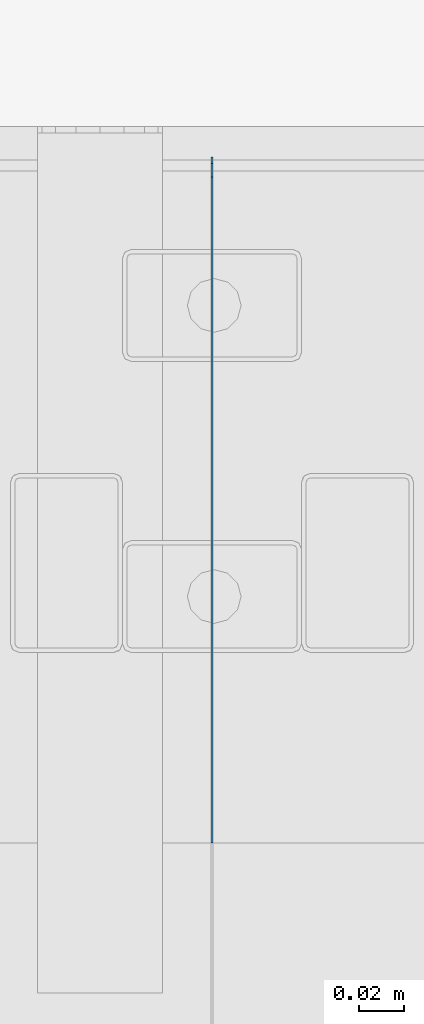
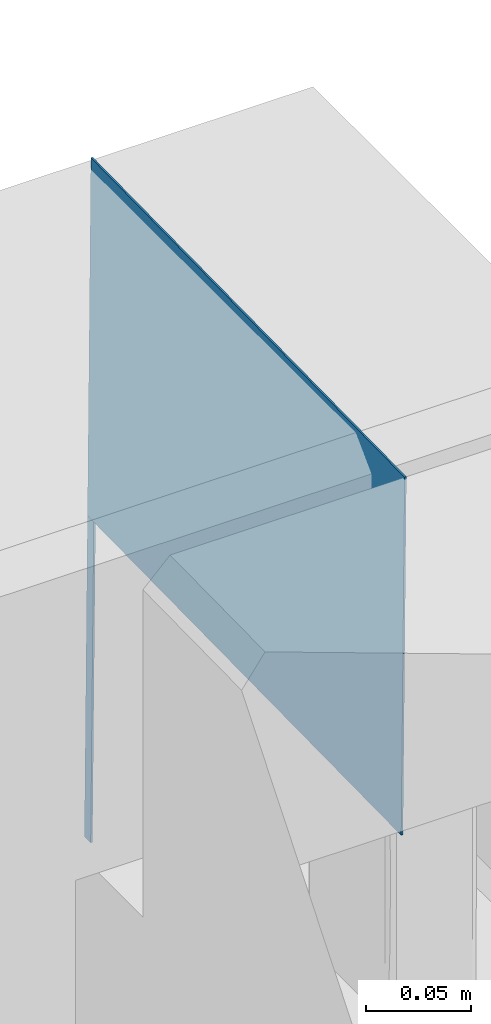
# One storey, part 53 of 186: 2 beams.
"""IFC4X3_ADD2 building model written with IfcOpenShell, lengths in millimetres."""

import ifcopenshell
import ifcopenshell.guid

model = None  # the IFC model being written
_history = None  # IfcOwnerHistory: only IFC2X3 demands one
_inside = {}  # id of a spatial element -> (the spatial element, [elements in it])
_under = {}  # id of a project, library or spatial element -> (it, [spatial elements below it])
_declared = {}  # id of a project -> (the project, [libraries it declares])
_typed = {}  # id of a type object -> (the type object, [elements of that type])
_made_of = {}  # id of a material, layer set ... -> (it, [elements and type objects made of it])


def new_model(schema):
    """Start an empty IFC model of exactly this schema.

    Asked for "IFC4X3", IfcOpenShell would pick the latest addendum, in which some entities
    have other attributes; the version numbers below select the first issue.
    IFC2X3 requires an IfcOwnerHistory on every rooted entity: one is made here for all.
    """
    global model, _history
    if schema == "IFC4X3":
        model = ifcopenshell.file(schema_version=(4, 3, 0, 0))
    else:
        model = ifcopenshell.file(schema=schema)
    _inside.clear()
    _under.clear()
    _declared.clear()
    _typed.clear()
    _made_of.clear()
    _history = None
    if model.schema == "IFC2X3":
        org = make("IfcOrganization", Name="unknown")
        user = make(
            "IfcPersonAndOrganization",
            ThePerson=make("IfcPerson", FamilyName="unknown"),
            TheOrganization=org,
        )
        app = make(
            "IfcApplication",
            ApplicationDeveloper=org,
            Version="unknown",
            ApplicationFullName="unknown",
            ApplicationIdentifier="unknown",
        )
        _history = make(
            "IfcOwnerHistory",
            OwningUser=user,
            OwningApplication=app,
            ChangeAction="ADDED",
            CreationDate=0,
        )
    return model


def make(cls, **values):
    """One entity of the class cls with the attributes given. An attribute that is None is left unset."""
    return model.create_entity(
        cls, **{name: value for name, value in values.items() if value is not None}
    )


def rooted(cls, **values):
    """An entity with a GlobalId (a new one), such as an element, a storey or a relation."""
    return make(cls, GlobalId=ifcopenshell.guid.new(), OwnerHistory=_history, **values)


def si_unit(unit_type, name, prefix=None):
    """IfcSIUnit, for example si_unit("LENGTHUNIT", "METRE", prefix="MILLI")."""
    return make("IfcSIUnit", UnitType=unit_type, Prefix=prefix, Name=name)


def assignment(units):
    """IfcUnitAssignment: the units of a project."""
    return None if units is None else make("IfcUnitAssignment", Units=units)


def point(xyz):
    """IfcCartesianPoint."""
    return None if xyz is None else make("IfcCartesianPoint", Coordinates=xyz)


def direction(xyz):
    """IfcDirection."""
    return None if xyz is None else make("IfcDirection", DirectionRatios=xyz)


def frame(location, z_axis=None, x_axis=None):
    """IfcAxis2Placement3D, a coordinate frame: its origin and axes. An axis left out is left unset."""
    return make(
        "IfcAxis2Placement3D",
        Location=point(location),
        Axis=direction(z_axis),
        RefDirection=direction(x_axis),
    )


def frame_2d(location, x_axis=None):
    """IfcAxis2Placement2D, a coordinate frame in the plane: its origin and x axis."""
    return make(
        "IfcAxis2Placement2D", Location=point(location), RefDirection=direction(x_axis)
    )


def origin_with_axes():
    """The frame at (0, 0, 0) with the z axis (0, 0, 1) and the x axis (1, 0, 0) written out."""
    return frame((0.0, 0.0, 0.0), z_axis=(0.0, 0.0, 1.0), x_axis=(1.0, 0.0, 0.0))


def place(relative_to, where):
    """IfcLocalPlacement: puts the frame where relative to a parent placement (None: the world)."""
    return make(
        "IfcLocalPlacement", PlacementRelTo=relative_to, RelativePlacement=where
    )


def context(
    kind, dimensions, precision=None, world=None, true_north=None, identifier=None
):
    """IfcGeometricRepresentationContext, for example the 3D "Model" context."""
    return make(
        "IfcGeometricRepresentationContext",
        ContextIdentifier=identifier,
        ContextType=kind,
        CoordinateSpaceDimension=dimensions,
        Precision=precision,
        WorldCoordinateSystem=world,
        TrueNorth=true_north,
    )


def subcontext(parent, identifier, kind, view, scale=None):
    """IfcGeometricRepresentationSubContext, for example "Body" below "Model"."""
    return make(
        "IfcGeometricRepresentationSubContext",
        ContextIdentifier=identifier,
        ContextType=kind,
        ParentContext=parent,
        TargetScale=scale,
        TargetView=view,
    )


def project(units=None, contexts=None):
    """IfcProject with its units and contexts."""
    return rooted(
        "IfcProject",
        Name="project",
        RepresentationContexts=contexts,
        UnitsInContext=assignment(units),
    )


def spatial(cls, under=None, at=None, **own):
    """A site, building, storey or space (cls), placed at a placement, below another one or the project."""
    s = rooted(cls, ObjectPlacement=at, **own)
    if under is not None:
        _under.setdefault(under.id(), (under, []))[1].append(s)
    return s


def profile(cls, at=None, kind="AREA", **sizes):
    """A parametric profile (cls). Its sizes go by their IFC names, for example OverallWidth=200.0."""
    return make(cls, ProfileType=kind, Position=at, **sizes)


def rectangle(**sizes):
    """IfcRectangleProfileDef."""
    return profile("IfcRectangleProfileDef", **sizes)


def extrude(swept, where, along, depth):
    """IfcExtrudedAreaSolid: the profile swept, set in the frame where, extruded along a direction by depth."""
    return make(
        "IfcExtrudedAreaSolid",
        SweptArea=swept,
        Position=where,
        ExtrudedDirection=direction(along),
        Depth=depth,
    )


def shape(context_of_items, identifier, shape_type, items):
    """IfcShapeRepresentation: the items that make up one representation, for example the "Body"."""
    return make(
        "IfcShapeRepresentation",
        ContextOfItems=context_of_items,
        RepresentationIdentifier=identifier,
        RepresentationType=shape_type,
        Items=items,
    )


def material(Name=None, Category=None):
    """IfcMaterial."""
    return make("IfcMaterial", Name=Name, Category=Category)


def made_of(thing, what):
    """Note that an element or type object is made of a material, layer set ...; save() writes the relation."""
    if what is not None:
        _made_of.setdefault(what.id(), (what, []))[1].append(thing)
    return thing


def element(
    cls,
    number,
    at=None,
    inside=None,
    cuts=None,
    type_object=None,
    material=None,
    context=None,
    identifier="Body",
    shape_type=None,
    held_by="IfcProductDefinitionShape",
    body=None,
    shapes=None,
    **own,
):
    """One element of the class cls, such as IfcWall. Its Tag is "e" and its number.

    at: its placement. inside: the storey or other place that contains it. cuts: it is an
    opening in that element (IfcRelVoidsElement). A single representation is given by context,
    identifier, shape_type and body (its items); several are given by shapes. held_by: the class
    of the entity that holds the representations. save() writes the other relations.
    """
    e = rooted(cls, Tag="e%d" % number, ObjectPlacement=at, **own)
    if body is not None:
        shapes = [shape(context, identifier, shape_type, body)]
    if shapes is not None:
        e.Representation = make(held_by, Representations=shapes)
    if inside is not None:
        _inside.setdefault(inside.id(), (inside, []))[1].append(e)
    if cuts is not None:
        rooted(
            "IfcRelVoidsElement", RelatingBuildingElement=cuts, RelatedOpeningElement=e
        )
    if type_object is not None:
        _typed.setdefault(type_object.id(), (type_object, []))[1].append(e)
    return made_of(e, material)


def aggregate(whole, parts):
    """IfcRelAggregates: a whole, such as a stair, and the parts it consists of."""
    return rooted("IfcRelAggregates", RelatingObject=whole, RelatedObjects=parts)


def save(model, path):
    """Write the relations noted so far, then the file.

    IfcRelAggregates (storeys below a building ...), IfcRelContainedInSpatialStructure (elements
    in a storey), IfcRelDefinesByType, IfcRelAssociatesMaterial and IfcRelDeclares: one each for
    every whole, place, type object, material and project.
    """
    for whole, parts in _under.values():
        aggregate(whole, parts)
    for where, things in _inside.values():
        rooted(
            "IfcRelContainedInSpatialStructure",
            RelatedElements=things,
            RelatingStructure=where,
        )
    for kind, things in _typed.values():
        rooted("IfcRelDefinesByType", RelatedObjects=things, RelatingType=kind)
    for what, things in _made_of.values():
        rooted("IfcRelAssociatesMaterial", RelatedObjects=things, RelatingMaterial=what)
    for by, libraries in _declared.values():
        rooted("IfcRelDeclares", RelatingContext=by, RelatedDefinitions=libraries)
    model.write(path)


model = new_model("IFC4X3_ADD2")

# Units and contexts
model_context = context("Model", 3, precision=1e-05, world=origin_with_axes(), true_north=direction((0.0, 1.0)))
body_context = subcontext(model_context, "Body", "Model", "MODEL_VIEW")
ifc_project = project(units=[si_unit("LENGTHUNIT", "METRE", prefix="MILLI"), si_unit("AREAUNIT", "SQUARE_METRE"), si_unit("VOLUMEUNIT", "CUBIC_METRE"), si_unit("PLANEANGLEUNIT", "RADIAN"), si_unit("TIMEUNIT", "SECOND"), si_unit("MASSUNIT", "GRAM")], contexts=[model_context])

# Site, building, storey
site_placement = place(None, origin_with_axes())
site = spatial("IfcSite", under=ifc_project, at=site_placement, Name="Site", CompositionType="ELEMENT")
building_placement = place(site_placement, origin_with_axes())
building = spatial("IfcBuilding", under=site, at=building_placement, Name="IFC Building Story")
storey_placement = place(building_placement, frame((0.0, 0.0, 4370.0), z_axis=(0.0, 0.0, 1.0), x_axis=(1.0, 0.0, 0.0)))
storey = spatial("IfcBuildingStorey", under=building, at=storey_placement, Name="ETAGE 10 (1)", Elevation=4370.0)

# Beams
ifc_material = material(Name="STEEL/Accessory_invisible 261")
beam_1_placement = place(storey_placement, frame((48361.6886988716, 26531.7446591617, 3049.539008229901), z_axis=(-1.0, 0.0, 0.0), x_axis=(0.0, -0.01553280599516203, 0.9998793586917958)))
element("IfcBeam", 1, at=beam_1_placement, inside=storey, material=ifc_material, Name="BEK4", ObjectType="6*1 2", context=body_context, shape_type="SweptSolid", body=[
    extrude(rectangle(XDim=189.000000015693, YDim=5.999999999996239, at=frame_2d((0.0, 5.95523630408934e-12), x_axis=(1.0, 0.0))), origin_with_axes(), (0.0, 0.0, 1.0), 1.0),
])
beam_2_placement = place(storey_placement, frame((48360.68869947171, 26381.6376954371, 3247.23231983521), z_axis=(1.0, 0.0, 0.0), x_axis=(0.0, -0.01552555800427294, 0.9998794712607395)))
element("IfcBeam", 2, at=beam_2_placement, inside=storey, material=ifc_material, Name="BEK4", ObjectType="211*1", context=body_context, shape_type="SweptSolid", body=[
    extrude(rectangle(XDim=211.000000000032, YDim=300.036162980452, at=frame_2d((0.0, 5.95523630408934e-12), x_axis=(1.0, 0.0))), origin_with_axes(), (0.0, 0.0, 1.0), 0.999999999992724),
])

save(model, "model.ifc")
